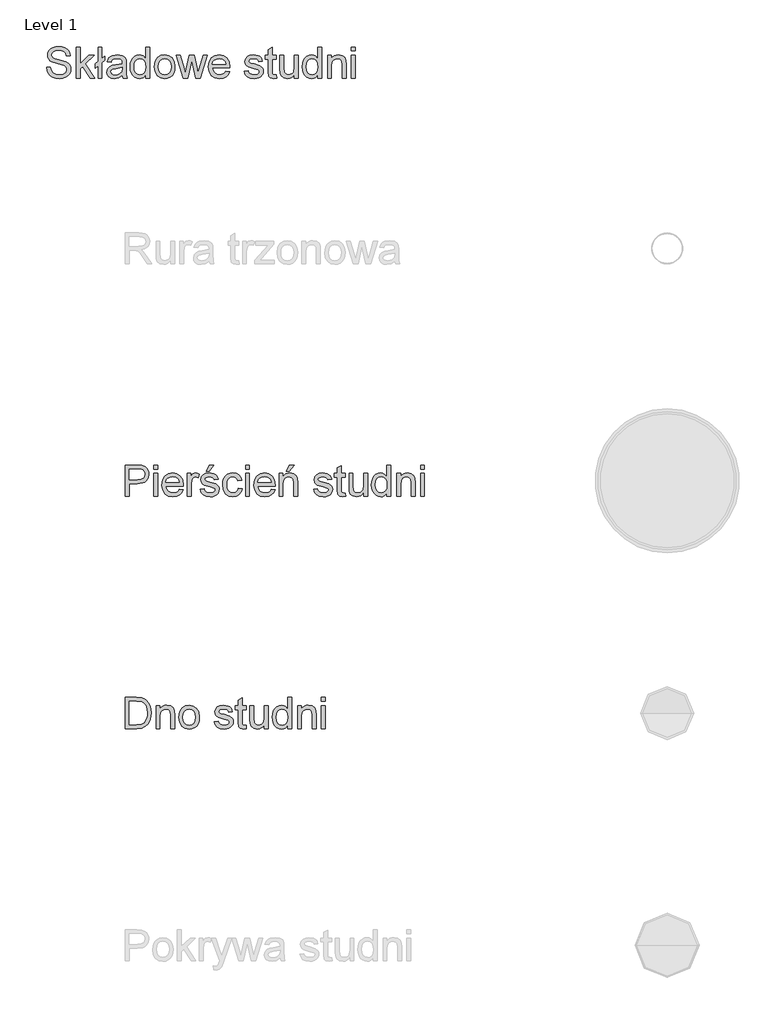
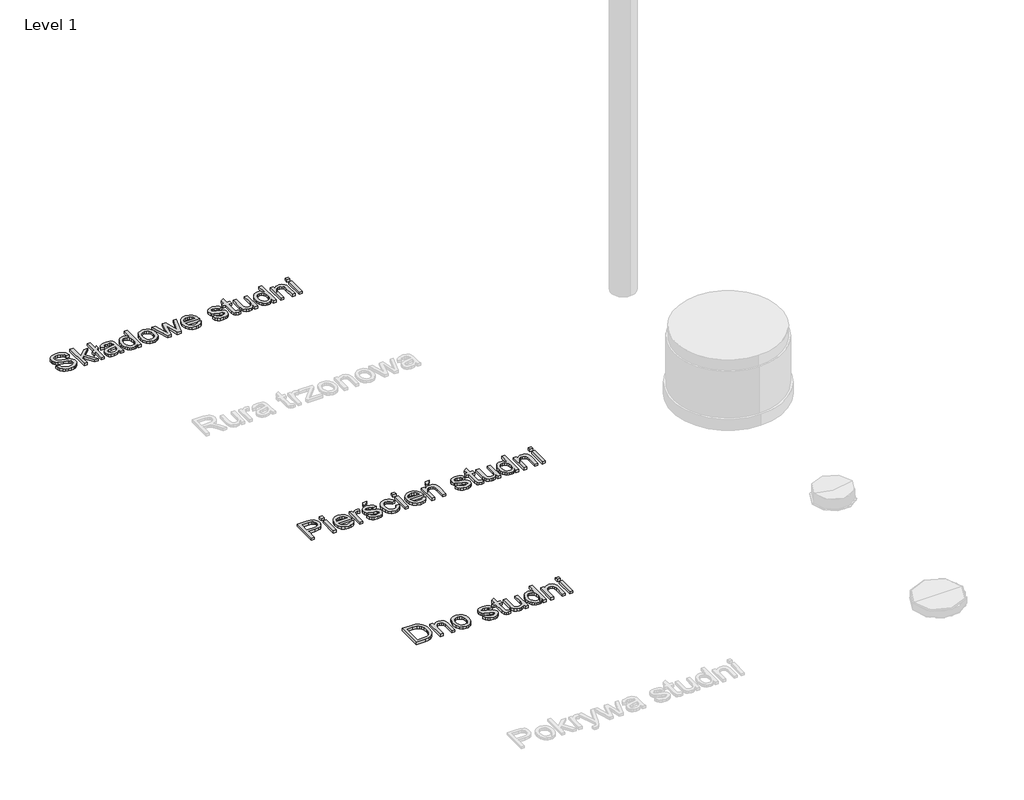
# One storey, part 4 of 8: 3 proxies.
"""IFC4 building model written with IfcOpenShell, lengths in millimetres."""

from ifc_helpers import new_model, si_unit, origin, origin_with_axes, place, context, project, spatial, polyline, outline, extrude, element, save

model = new_model("IFC4")

# Units and contexts
model_context = context("Model", 3, world=origin())
ifc_project = project(units=[si_unit("LENGTHUNIT", "METRE", prefix="MILLI")], contexts=[model_context])

# Site, building, storey
site = spatial("IfcSite", under=ifc_project)
building = spatial("IfcBuilding", under=site)
storey = spatial("IfcBuildingStorey", under=building, Name="Level 1", Elevation=0.0)

# Proxies
placement = place(None, origin())
element("IfcBuildingElementProxy", 1, Name="200mm Arial", ObjectType="200mm Arial", at=placement, inside=storey, context=model_context, shape_type="SweptSolid", body=[
    extrude(outline(polyline([(-17340.1100864, -11744.8858597), (-17314.9960089, -11744.8858597), (-17306.902605, -11770.0244627), (-17298.7724129, -11778.9149443), (-17287.1350791, -11785.9169649), (-17272.9103087, -11790.4603076), (-17257.0178065, -11791.9747551), (-17230.7755575, -11787.3884929), (-17213.8284602, -11774.7824032), (-17208.2611794, -11757.9334078), (-17212.4305087, -11742.2616348), (-17218.7826044, -11736.0628232), (-17229.5002332, -11730.857293), (-17266.0677036, -11721.2678356), (-17305.431077, -11708.8824751), (-17317.9329335, -11700.433452), (-17326.7927582, -11690.1940698), (-17332.0718649, -11678.3850577), (-17333.8315671, -11665.227145), (-17331.6549319, -11650.5179966), (-17325.1250265, -11636.8021295), (-17314.4135291, -11625.1770585), (-17299.6921179, -11616.7402981), (-17282.0215194, -11611.6083442), (-17262.46246, -11609.897693), (-17241.2724571, -11611.688052), (-17222.7312045, -11617.0591291), (-17207.5008899, -11625.9005598), (-17196.2437009, -11638.1019793), (-17189.1190529, -11652.9030982), (-17186.2863615, -11669.5436271), (-17211.4004391, -11669.5436271), (-17216.0112267, -11654.5585672), (-17225.6252095, -11643.7428365), (-17240.6470577, -11637.194537), (-17261.4814413, -11635.0117705), (-17282.8063343, -11637.1700115), (-17297.435775, -11643.6447347), (-17305.8970609, -11653.1728783), (-17308.7174895, -11664.491381), (-17306.718664, -11674.1421521), (-17300.7221875, -11681.9044622), (-17286.5464679, -11688.8451691), (-17259.7156078, -11695.9330289), (-17215.2754628, -11708.5391186), (-17200.9587218, -11717.6503293), (-17190.9707256, -11728.8952557), (-17185.1030078, -11742.1512702), (-17183.1471018, -11757.2957457), (-17185.3973134, -11772.7774463), (-17192.147948, -11787.339442), (-17203.1230942, -11799.8719553), (-17218.0468404, -11809.2652089), (-17235.9933504, -11815.1329267), (-17256.0367878, -11817.0888326), (-17280.6419619, -11814.9796425), (-17300.8938658, -11808.6520722), (-17317.0254912, -11798.0815962), (-17329.2698303, -11783.2436891), (-17337.1302423, -11765.1684204), (-17340.1100864, -11744.8858597)])), origin_with_axes(), (0.0, 0.0, 1.0), 20.0),
    extrude(outline(polyline([(-17148.6152452, -11813.949573), (-17148.6152452, -11613.0369527), (-17123.5011677, -11613.0369527), (-17123.5011677, -11720.9980555), (-17067.190697, -11666.4043674), (-17032.4626366, -11666.4043674), (-17089.4598204, -11721.6847686), (-17029.3233769, -11813.949573), (-17058.6558347, -11813.949573), (-17107.4615127, -11739.1469006), (-17123.5011677, -11754.6960463), (-17123.5011677, -11813.949573), (-17148.6152452, -11813.949573)])), origin_with_axes(), (0.0, 0.0, 1.0), 20.0),
    extrude(outline(polyline([(-17007.3485591, -11734.5361129), (-17026.1841172, -11749.5947493), (-17026.1841172, -11721.341412), (-17007.3485591, -11706.2827757), (-17007.3485591, -11613.0369527), (-16982.2344815, -11613.0369527), (-16982.2344815, -11686.1718933), (-16963.3989234, -11671.113257), (-16963.3989234, -11699.3665942), (-16982.2344815, -11714.4252305), (-16982.2344815, -11813.949573), (-17007.3485591, -11813.949573), (-17007.3485591, -11734.5361129)])), origin_with_axes(), (0.0, 0.0, 1.0), 20.0),
    extrude(outline(polyline([(-16850.3855745, -11795.1140148), (-16874.7393625, -11812.1346884), (-16901.6437991, -11817.0888326), (-16922.631467, -11814.1089885), (-16938.1131676, -11805.169456), (-16947.6597054, -11791.5946104), (-16950.8418846, -11774.7088268), (-16946.0348932, -11754.8431991), (-16933.404278, -11740.4222249), (-16915.8195187, -11732.1816682), (-16894.0899555, -11728.4047463), (-16850.5327273, -11719.7717822), (-16850.3855745, -11714.1799759), (-16852.1146198, -11702.9718377), (-16857.301756, -11695.6387233), (-16868.9023016, -11690.1940698), (-16885.0645839, -11688.3791853), (-16900.0251184, -11689.5870645), (-16910.472967, -11693.2107021), (-16917.597615, -11699.9122858), (-16922.5885474, -11710.3540031), (-16947.7026249, -11707.2147434), (-16936.8378433, -11682.6892771), (-16927.5794798, -11674.4364576), (-16914.9611274, -11668.3173538), (-16881.8272223, -11663.2651077), (-16851.3911186, -11667.7287426), (-16834.1987667, -11678.9368807), (-16826.4977702, -11695.9820798), (-16825.2714969, -11717.9568977), (-16825.2714969, -11749.2023418), (-16823.9961727, -11792.8331464), (-16818.9929775, -11813.949573), (-16844.1070551, -11813.949573), (-16850.3855745, -11795.1140148)]), holes=[polyline([(-16850.3855745, -11744.8858597), (-16890.9016449, -11752.5868562), (-16912.5085807, -11756.6580836), (-16922.2942418, -11763.2799595), (-16925.7278071, -11772.9429932), (-16923.8577403, -11780.4109977), (-16918.2475398, -11786.5301016), (-16909.0198331, -11790.6135917), (-16896.2972475, -11791.9747551), (-16882.808241, -11790.4725703), (-16870.8888643, -11785.9660159), (-16854.5058528, -11771.4224143), (-16850.5327273, -11751.998245), (-16850.3855745, -11744.8858597)])]), origin_with_axes(), (0.0, 0.0, 1.0), 20.0),
    extrude(outline(polyline([(-16699.7011092, -11813.949573), (-16699.7011092, -11790.2579725), (-16707.215099, -11801.9964738), (-16716.3171127, -11810.3811176), (-16727.0071503, -11815.4119039), (-16739.2852119, -11817.0888326), (-16755.5210706, -11814.6608115), (-16770.3835033, -11807.376748), (-16782.9650675, -11795.7455456), (-16792.3583211, -11780.2761077), (-16798.2076448, -11761.5938337), (-16800.1574194, -11740.324123), (-16798.360929, -11719.3180611), (-16792.9714578, -11700.3476128), (-16783.9951371, -11684.4918989), (-16771.4380983, -11672.8300396), (-16756.2507033, -11665.6563407), (-16739.3833138, -11663.2651077), (-16727.0960552, -11664.975759), (-16716.2312736, -11670.1077128), (-16699.7011092, -11687.8886759), (-16699.7011092, -11613.0369527), (-16674.5870317, -11613.0369527), (-16674.5870317, -11813.949573), (-16699.7011092, -11813.949573)]), holes=[polyline([(-16775.0433419, -11740.2260211), (-16772.2106505, -11762.9427343), (-16763.7125764, -11779.0988853), (-16751.3640041, -11788.7557877), (-16736.9798181, -11791.9747551), (-16722.6017634, -11788.9029404), (-16710.5658908, -11779.6874965), (-16702.4173046, -11764.1567449), (-16699.7011092, -11742.1390075), (-16702.4663556, -11718.0672623), (-16710.7620946, -11701.3776824), (-16723.1045355, -11691.6288096), (-16738.0098877, -11688.3791853), (-16752.5412265, -11691.5000509), (-16764.4483404, -11700.8626476), (-16772.3945915, -11716.9452222), (-16775.0433419, -11740.2260211)])]), origin_with_axes(), (0.0, 0.0, 1.0), 20.0),
    extrude(outline(polyline([(-16643.1944348, -11740.1769702), (-16637.762044, -11704.6027813), (-16630.9715555, -11690.7796153), (-16621.4648716, -11679.5990683), (-16601.3294637, -11667.3485979), (-16577.2209303, -11663.2651077), (-16550.8376599, -11668.237646), (-16529.7641529, -11683.1552609), (-16515.950184, -11706.8407301), (-16511.3455277, -11738.116831), (-16513.3811414, -11763.4884259), (-16519.4879825, -11782.8022307), (-16529.4882414, -11797.2661245), (-16543.2041085, -11808.0879865), (-16559.4951495, -11814.8386211), (-16577.2209303, -11817.0888326), (-16603.9230318, -11812.1346884), (-16624.9720133, -11797.2722558), (-16638.6388294, -11773.090146), (-16643.1944348, -11740.1769702)]), holes=[polyline([(-16618.0803572, -11740.1279193), (-16615.1740895, -11762.8568952), (-16606.4552862, -11779.0498343), (-16593.3341617, -11788.7435249), (-16577.2209303, -11791.9747551), (-16561.1812753, -11788.7251308), (-16548.0846763, -11778.9762579), (-16539.365873, -11762.568721), (-16536.4596053, -11739.3431043), (-16539.3842671, -11717.276316), (-16548.1582527, -11701.304106), (-16561.2732458, -11691.6104155), (-16577.2209303, -11688.3791853), (-16593.3341617, -11691.5981527), (-16606.4552862, -11701.2550551), (-16615.1740895, -11717.4112061), (-16618.0803572, -11740.1279193)])]), origin_with_axes(), (0.0, 0.0, 1.0), 20.0),
    extrude(outline(polyline([(-16458.6157751, -11813.949573), (-16503.4973785, -11666.4043674), (-16477.4022823, -11666.4043674), (-16451.9448482, -11752.4887543), (-16444.3419537, -11783.2436891), (-16438.1124852, -11753.6169257), (-16417.85445, -11666.4043674), (-16387.9333811, -11666.4043674), (-16367.7734477, -11753.3716711), (-16362.2306923, -11780.2025313), (-16354.2844412, -11751.9001431), (-16328.7779562, -11666.4043674), (-16302.5847582, -11666.4043674), (-16347.8097181, -11813.949573), (-16378.1722455, -11813.949573), (-16397.449262, -11727.4237277), (-16403.0410683, -11700.4457147), (-16427.9098912, -11813.949573), (-16458.6157751, -11813.949573)])), origin_with_axes(), (0.0, 0.0, 1.0), 20.0),
    extrude(outline(polyline([(-16182.0175656, -11769.9999373), (-16157.3939974, -11773.139197), (-16166.2660849, -11791.6927122), (-16180.4234103, -11805.5618635), (-16199.5471427, -11814.2070904), (-16223.318451, -11817.0888326), (-16252.7857988, -11812.1162943), (-16275.4595924, -11797.1986794), (-16289.9173548, -11773.3047439), (-16294.736609, -11741.4032435), (-16289.8683039, -11708.428754), (-16275.2633887, -11683.7683976), (-16252.8961634, -11668.3909302), (-16224.740928, -11663.2651077), (-16197.4624781, -11668.3786675), (-16175.6654698, -11683.7193467), (-16161.3732543, -11708.3306521), (-16156.6091825, -11741.2560907), (-16156.7563353, -11748.0251194), (-16269.6225314, -11748.0251194), (-16265.2753925, -11766.8238894), (-16255.1770317, -11780.6439897), (-16240.6027734, -11789.1420637), (-16222.8279416, -11791.9747551), (-16198.2043734, -11786.7263053), (-16189.0563745, -11779.9204884), (-16182.0175656, -11769.9999373)]), holes=[polyline([(-16269.6225314, -11722.9110419), (-16181.72326, -11722.9110419), (-16185.1200371, -11709.6427646), (-16191.7787012, -11700.1514091), (-16206.4204046, -11691.3222412), (-16224.8390299, -11688.3791853), (-16241.767733, -11690.7274987), (-16255.7656429, -11697.7724389), (-16265.4961217, -11708.7537164), (-16269.6225314, -11722.9110419)])]), origin_with_axes(), (0.0, 0.0, 1.0), 20.0),
    extrude(outline(polyline([(-16062.4313917, -11769.9999373), (-16037.3173142, -11766.8606776), (-16033.3564514, -11777.6028318), (-16025.6922431, -11785.500032), (-16014.2756386, -11790.3560743), (-15999.0575867, -11791.9747551), (-15984.0234758, -11790.4909644), (-15973.4529998, -11786.0395923), (-15967.1990059, -11779.5893946), (-15965.1143413, -11772.1091274), (-15967.2112686, -11765.7079807), (-15973.5020508, -11760.8274129), (-15999.3518923, -11753.6659767), (-16037.1701614, -11741.378718), (-16046.7412246, -11735.2044319), (-16053.6758002, -11727.0313202), (-16059.292132, -11706.773285), (-16054.7794462, -11688.0603542), (-16042.4676621, -11673.7620073), (-16026.5015835, -11666.330791), (-16004.8946477, -11663.2651077), (-15974.3359166, -11668.1947265), (-15962.9070493, -11673.9949993), (-15954.9117473, -11681.5365802), (-15946.2787831, -11704.0754837), (-15971.3928607, -11707.2147434), (-15974.5627772, -11699.3114119), (-15980.8351652, -11693.3578549), (-16002.9326104, -11688.3791853), (-16017.3535846, -11689.5686704), (-16026.9675674, -11693.1371257), (-16032.3754327, -11698.2874737), (-16034.1780545, -11704.2226365), (-16031.1859476, -11711.5312255), (-16021.8172195, -11717.0739809), (-16000.1857581, -11722.4205326), (-15963.3239822, -11734.2418073), (-15946.2052067, -11747.632712), (-15941.5514995, -11757.4796867), (-15940.0002637, -11769.460377), (-15941.8212796, -11781.8457375), (-15947.2843272, -11793.495334), (-15956.1809402, -11803.4955929), (-15968.3026519, -11810.9329406), (-15982.9443553, -11815.5498596), (-15999.4009432, -11817.0888326), (-16024.7234872, -11814.1212512), (-16043.2034261, -11805.2185069), (-16055.5397357, -11790.4787017), (-16062.4313917, -11769.9999373)])), origin_with_axes(), (0.0, 0.0, 1.0), 20.0),
    extrude(outline(polyline([(-15858.3795117, -11793.0048247), (-15855.240252, -11814.6853369), (-15874.0267593, -11817.0888326), (-15895.0696094, -11812.9195034), (-15905.566509, -11801.9811454), (-15908.6076668, -11773.4825535), (-15908.6076668, -11691.518445), (-15927.443225, -11691.518445), (-15927.443225, -11666.4043674), (-15908.6076668, -11666.4043674), (-15908.6076668, -11630.5481356), (-15883.4935893, -11615.7838049), (-15883.4935893, -11666.4043674), (-15858.3795117, -11666.4043674), (-15858.3795117, -11691.518445), (-15883.4935893, -11691.518445), (-15883.4935893, -11772.7467895), (-15882.1692141, -11785.6962357), (-15877.8772575, -11790.2824979), (-15869.3178697, -11791.9747551), (-15858.3795117, -11793.0048247)])), origin_with_axes(), (0.0, 0.0, 1.0), 20.0),
    extrude(outline(polyline([(-15739.0876434, -11813.949573), (-15739.0876434, -11788.5902408), (-15748.1743287, -11801.0583747), (-15758.7570674, -11809.9641847), (-15770.8358596, -11815.3076707), (-15784.4107052, -11817.0888326), (-15808.0287293, -11812.0856375), (-15824.313639, -11799.5285987), (-15831.7939062, -11781.0363971), (-15833.2654342, -11757.6881532), (-15833.2654342, -11666.4043674), (-15808.1513567, -11666.4043674), (-15808.1513567, -11745.8668784), (-15806.6307778, -11771.4714652), (-15802.9703519, -11780.0124589), (-15796.6979639, -11786.5055761), (-15777.9850331, -11791.9747551), (-15757.0157593, -11786.3829488), (-15748.6587067, -11779.779467), (-15743.1588709, -11771.1526342), (-15739.0876434, -11743.1690771), (-15739.0876434, -11666.4043674), (-15713.9735659, -11666.4043674), (-15713.9735659, -11813.949573), (-15739.0876434, -11813.949573)])), origin_with_axes(), (0.0, 0.0, 1.0), 20.0),
    extrude(outline(polyline([(-15588.4031782, -11813.949573), (-15588.4031782, -11790.2579725), (-15595.917168, -11801.9964738), (-15605.0191817, -11810.3811176), (-15615.7092193, -11815.4119039), (-15627.9872809, -11817.0888326), (-15644.2231396, -11814.6608115), (-15659.0855722, -11807.376748), (-15671.6671365, -11795.7455456), (-15681.0603901, -11780.2761077), (-15686.9097138, -11761.5938337), (-15688.8594884, -11740.324123), (-15687.062998, -11719.3180611), (-15681.6735267, -11700.3476128), (-15672.697206, -11684.4918989), (-15660.1401673, -11672.8300396), (-15644.9527722, -11665.6563407), (-15628.0853828, -11663.2651077), (-15615.7981241, -11664.975759), (-15604.9333425, -11670.1077128), (-15588.4031782, -11687.8886759), (-15588.4031782, -11613.0369527), (-15563.2891007, -11613.0369527), (-15563.2891007, -11813.949573), (-15588.4031782, -11813.949573)]), holes=[polyline([(-15663.7454108, -11740.2260211), (-15660.9127195, -11762.9427343), (-15652.4146454, -11779.0988853), (-15640.0660731, -11788.7557877), (-15625.6818871, -11791.9747551), (-15611.3038324, -11788.9029404), (-15599.2679598, -11779.6874965), (-15591.1193736, -11764.1567449), (-15588.4031782, -11742.1390075), (-15591.1684245, -11718.0672623), (-15599.4641635, -11701.3776824), (-15611.8066045, -11691.6288096), (-15626.7119566, -11688.3791853), (-15641.2432955, -11691.5000509), (-15653.1504094, -11700.8626476), (-15661.0966605, -11716.9452222), (-15663.7454108, -11740.2260211)])]), origin_with_axes(), (0.0, 0.0, 1.0), 20.0),
    extrude(outline(polyline([(-15525.6179844, -11813.949573), (-15525.6179844, -11666.4043674), (-15500.5039068, -11666.4043674), (-15500.5039068, -11687.0057592), (-15491.7789722, -11676.6192242), (-15481.3004667, -11669.2002706), (-15469.0683903, -11664.7488984), (-15455.0827432, -11663.2651077), (-15431.3666172, -11668.0475737), (-15415.1798094, -11680.6046124), (-15407.6504912, -11699.0722886), (-15406.3261161, -11723.3525003), (-15406.3261161, -11813.949573), (-15431.4401936, -11813.949573), (-15431.4401936, -11726.7370146), (-15434.3341986, -11704.5169421), (-15444.5613181, -11692.7692437), (-15461.8027209, -11688.3791853), (-15476.5118694, -11690.8439946), (-15489.050514, -11698.2384227), (-15497.6405586, -11712.5245069), (-15500.5039068, -11735.6642844), (-15500.5039068, -11813.949573), (-15525.6179844, -11813.949573)])), origin_with_axes(), (0.0, 0.0, 1.0), 20.0),
    extrude(outline(polyline([(-15371.7942595, -11813.949573), (-15371.7942595, -11666.4043674), (-15346.6801819, -11666.4043674), (-15346.6801819, -11813.949573), (-15371.7942595, -11813.949573)])), origin_with_axes(), (0.0, 0.0, 1.0), 20.0),
    extrude(outline(polyline([(-15371.7942595, -11638.1510302), (-15371.7942595, -11613.0369527), (-15346.6801819, -11613.0369527), (-15346.6801819, -11638.1510302), (-15371.7942595, -11638.1510302)])), origin_with_axes(), (0.0, 0.0, 1.0), 20.0),
])
element("IfcBuildingElementProxy", 2, Name="200mm Arial", ObjectType="200mm Arial", at=placement, inside=storey, context=model_context, shape_type="SweptSolid", body=[
    extrude(outline(polyline([(-16830.6923074, -14513.949573), (-16830.6923074, -14313.0369527), (-16756.2329915, -14313.0369527), (-16726.2138207, -14314.949939), (-16701.8109817, -14324.3431926), (-16692.9388943, -14332.6695885), (-16685.9920559, -14343.767362), (-16681.5038956, -14356.8578296), (-16680.0078421, -14371.1623079), (-16684.0484127, -14394.8416456), (-16696.1701245, -14414.5723833), (-16705.8776106, -14422.3408248), (-16718.8377867, -14427.8897115), (-16754.5162089, -14432.328821), (-16805.5782298, -14432.328821), (-16805.5782298, -14513.949573), (-16830.6923074, -14513.949573)]), holes=[polyline([(-16805.5782298, -14407.2147434), (-16753.0446809, -14407.2147434), (-16730.7755575, -14404.9093496), (-16716.0602777, -14397.9931681), (-16707.8565092, -14386.8953946), (-16705.1219197, -14372.0452247), (-16706.7344691, -14360.7635102), (-16711.5721173, -14351.2476292), (-16719.0339905, -14344.086193), (-16728.5192146, -14339.8678128), (-16753.6332921, -14338.1510302), (-16805.5782298, -14338.1510302), (-16805.5782298, -14407.2147434)])]), origin_with_axes(), (0.0, 0.0, 1.0), 20.0),
    extrude(outline(polyline([(-16648.6152452, -14513.949573), (-16648.6152452, -14366.4043674), (-16623.5011677, -14366.4043674), (-16623.5011677, -14513.949573), (-16648.6152452, -14513.949573)])), origin_with_axes(), (0.0, 0.0, 1.0), 20.0),
    extrude(outline(polyline([(-16648.6152452, -14338.1510302), (-16648.6152452, -14313.0369527), (-16623.5011677, -14313.0369527), (-16623.5011677, -14338.1510302), (-16648.6152452, -14338.1510302)])), origin_with_axes(), (0.0, 0.0, 1.0), 20.0),
    extrude(outline(polyline([(-16482.5287871, -14469.9999373), (-16457.9052189, -14473.139197), (-16466.7773064, -14491.6927122), (-16480.9346318, -14505.5618635), (-16500.0583642, -14514.2070904), (-16523.8296725, -14517.0888326), (-16553.2970203, -14512.1162943), (-16575.9708139, -14497.1986794), (-16590.4285763, -14473.3047439), (-16595.2478305, -14441.4032435), (-16590.3795254, -14408.428754), (-16575.7746102, -14383.7683976), (-16553.4073849, -14368.3909302), (-16525.2521495, -14363.2651077), (-16497.9736996, -14368.3786675), (-16476.1766914, -14383.7193467), (-16461.8844758, -14408.3306521), (-16457.120404, -14441.2560907), (-16457.2675568, -14448.0251194), (-16570.1337529, -14448.0251194), (-16565.786614, -14466.8238894), (-16555.6882532, -14480.6439897), (-16541.1139949, -14489.1420637), (-16523.3391631, -14491.9747551), (-16498.7155949, -14486.7263053), (-16489.567596, -14479.9204884), (-16482.5287871, -14469.9999373)]), holes=[polyline([(-16570.1337529, -14422.9110419), (-16482.2344815, -14422.9110419), (-16485.6312586, -14409.6427646), (-16492.2899227, -14400.1514091), (-16506.9316261, -14391.3222412), (-16525.3502514, -14388.3791853), (-16542.2789545, -14390.7274987), (-16556.2768644, -14397.7724389), (-16566.0073432, -14408.7537164), (-16570.1337529, -14422.9110419)])]), origin_with_axes(), (0.0, 0.0, 1.0), 20.0),
    extrude(outline(polyline([(-16432.0063265, -14513.949573), (-16432.0063265, -14366.4043674), (-16410.0315086, -14366.4043674), (-16410.0315086, -14388.2320325), (-16394.433312, -14368.1211501), (-16378.7370136, -14363.2651077), (-16366.2290257, -14365.2026196), (-16353.5248342, -14371.0151551), (-16361.9125437, -14393.5295332), (-16379.5708794, -14388.3791853), (-16393.7711244, -14393.3333295), (-16402.8210215, -14407.0675906), (-16406.8922489, -14436.4000484), (-16406.8922489, -14513.949573), (-16432.0063265, -14513.949573)])), origin_with_axes(), (0.0, 0.0, 1.0), 20.0),
    extrude(outline(polyline([(-16309.5751985, -14350.708069), (-16290.7396403, -14313.0369527), (-16259.3470434, -14313.0369527), (-16290.7396403, -14350.708069), (-16309.5751985, -14350.708069)])), origin_with_axes(), (0.0, 0.0, 1.0), 20.0),
    extrude(outline(polyline([(-16347.2463148, -14469.9999373), (-16322.1322372, -14466.8606776), (-16318.1713744, -14477.6028318), (-16310.5071662, -14485.500032), (-16299.0905616, -14490.3560743), (-16283.8725097, -14491.9747551), (-16268.8383989, -14490.4909644), (-16258.2679229, -14486.0395923), (-16252.013929, -14479.5893946), (-16249.9292643, -14472.1091274), (-16252.0261917, -14465.7079807), (-16258.3169738, -14460.8274129), (-16284.1668153, -14453.6659767), (-16321.9850844, -14441.378718), (-16331.5561477, -14435.2044319), (-16338.4907233, -14427.0313202), (-16344.1070551, -14406.773285), (-16339.5943693, -14388.0603542), (-16327.2825852, -14373.7620073), (-16311.3165066, -14366.330791), (-16289.7095707, -14363.2651077), (-16259.1508397, -14368.1947265), (-16247.7219723, -14373.9949993), (-16239.7266703, -14381.5365802), (-16231.0937062, -14404.0754837), (-16256.2077837, -14407.2147434), (-16259.3777002, -14399.3114119), (-16265.6500882, -14393.3578549), (-16287.7475334, -14388.3791853), (-16302.1685076, -14389.5686704), (-16311.7824904, -14393.1371257), (-16317.1903558, -14398.2874737), (-16318.9929775, -14404.2226365), (-16316.0008707, -14411.5312255), (-16306.6321425, -14417.0739809), (-16285.0006812, -14422.4205326), (-16248.1389053, -14434.2418073), (-16231.0201298, -14447.632712), (-16226.3664225, -14457.4796867), (-16224.8151868, -14469.460377), (-16226.6362027, -14481.8457375), (-16232.0992503, -14493.495334), (-16240.9958632, -14503.4955929), (-16253.1175749, -14510.9329406), (-16267.7592784, -14515.5498596), (-16284.2158663, -14517.0888326), (-16309.5384103, -14514.1212512), (-16328.0183492, -14505.2185069), (-16340.3546587, -14490.4787017), (-16347.2463148, -14469.9999373)])), origin_with_axes(), (0.0, 0.0, 1.0), 20.0),
    extrude(outline(polyline([(-16102.3840588, -14460.5821582), (-16077.2699812, -14463.7214179), (-16084.2720019, -14486.0579864), (-16097.4299146, -14502.9376386), (-16115.5051833, -14513.5510341), (-16137.2592719, -14517.0888326), (-16163.9736361, -14512.1530825), (-16184.8632021, -14497.3458322), (-16198.3460772, -14473.3170066), (-16202.8403689, -14440.7165304), (-16200.9212512, -14418.3676992), (-16195.163898, -14398.9987122), (-16185.4763388, -14383.357596), (-16171.7666031, -14372.1923775), (-16155.3651975, -14365.4969252), (-16137.6026285, -14363.2651077), (-16116.3819687, -14366.330791), (-16099.4164774, -14375.5278409), (-16087.2457147, -14390.365748), (-16080.4092409, -14410.3540031), (-16105.5233185, -14413.4932628), (-16110.0789239, -14402.5365107), (-16117.172915, -14394.6822301), (-16126.4128844, -14389.9549465), (-16137.4064247, -14388.3791853), (-16153.6361521, -14391.4816568), (-16166.5181533, -14400.7890712), (-16174.9242569, -14416.8042008), (-16177.7262914, -14440.0298174), (-16174.9855705, -14463.5681337), (-16166.7634079, -14479.6384455), (-16154.1143987, -14488.8906777), (-16138.0931378, -14491.9747551), (-16125.0885093, -14490.049506), (-16114.4260628, -14484.2737587), (-16106.669884, -14474.5003603), (-16102.3840588, -14460.5821582)])), origin_with_axes(), (0.0, 0.0, 1.0), 20.0),
    extrude(outline(polyline([(-16055.2951634, -14513.949573), (-16055.2951634, -14366.4043674), (-16030.1810859, -14366.4043674), (-16030.1810859, -14513.949573), (-16055.2951634, -14513.949573)])), origin_with_axes(), (0.0, 0.0, 1.0), 20.0),
    extrude(outline(polyline([(-16055.2951634, -14338.1510302), (-16055.2951634, -14313.0369527), (-16030.1810859, -14313.0369527), (-16030.1810859, -14338.1510302), (-16055.2951634, -14338.1510302)])), origin_with_axes(), (0.0, 0.0, 1.0), 20.0),
    extrude(outline(polyline([(-15889.2087053, -14469.9999373), (-15864.5851371, -14473.139197), (-15873.4572246, -14491.6927122), (-15887.61455, -14505.5618635), (-15906.7382824, -14514.2070904), (-15930.5095906, -14517.0888326), (-15959.9769385, -14512.1162943), (-15982.6507321, -14497.1986794), (-15997.1084945, -14473.3047439), (-16001.9277486, -14441.4032435), (-15997.0594436, -14408.428754), (-15982.4545284, -14383.7683976), (-15960.0873031, -14368.3909302), (-15931.9320677, -14363.2651077), (-15904.6536177, -14368.3786675), (-15882.8566095, -14383.7193467), (-15868.564394, -14408.3306521), (-15863.8003222, -14441.2560907), (-15863.947475, -14448.0251194), (-15976.8136711, -14448.0251194), (-15972.4665322, -14466.8238894), (-15962.3681714, -14480.6439897), (-15947.793913, -14489.1420637), (-15930.0190813, -14491.9747551), (-15905.3955131, -14486.7263053), (-15896.2475142, -14479.9204884), (-15889.2087053, -14469.9999373)]), holes=[polyline([(-15976.8136711, -14422.9110419), (-15888.9143997, -14422.9110419), (-15892.3111768, -14409.6427646), (-15898.9698409, -14400.1514091), (-15913.6115443, -14391.3222412), (-15932.0301696, -14388.3791853), (-15948.9588727, -14390.7274987), (-15962.9567826, -14397.7724389), (-15972.6872614, -14408.7537164), (-15976.8136711, -14422.9110419)])]), origin_with_axes(), (0.0, 0.0, 1.0), 20.0),
    extrude(outline(polyline([(-15838.6862446, -14513.949573), (-15838.6862446, -14366.4043674), (-15813.5721671, -14366.4043674), (-15813.5721671, -14387.0057592), (-15804.8472325, -14376.6192242), (-15794.368727, -14369.2002706), (-15782.1366506, -14364.7488984), (-15768.1510034, -14363.2651077), (-15744.4348775, -14368.0475737), (-15728.2480697, -14380.6046124), (-15720.7187515, -14399.0722886), (-15719.3943763, -14423.3525003), (-15719.3943763, -14513.949573), (-15744.5084539, -14513.949573), (-15744.5084539, -14426.7370146), (-15747.4024589, -14404.5169421), (-15757.6295784, -14392.7692437), (-15774.8709812, -14388.3791853), (-15789.5801297, -14390.8439946), (-15802.1187743, -14398.2384227), (-15810.7088189, -14412.5245069), (-15813.5721671, -14435.6642844), (-15813.5721671, -14513.949573), (-15838.6862446, -14513.949573)])), origin_with_axes(), (0.0, 0.0, 1.0), 20.0),
    extrude(outline(polyline([(-15791.5973493, -14350.708069), (-15772.7617911, -14313.0369527), (-15741.3691942, -14313.0369527), (-15772.7617911, -14350.708069), (-15791.5973493, -14350.708069)])), origin_with_axes(), (0.0, 0.0, 1.0), 20.0),
    extrude(outline(polyline([(-15615.7988065, -14469.9999373), (-15590.684729, -14466.8606776), (-15586.7238661, -14477.6028318), (-15579.0596579, -14485.500032), (-15567.6430533, -14490.3560743), (-15552.4250015, -14491.9747551), (-15537.3908906, -14490.4909644), (-15526.8204146, -14486.0395923), (-15520.5664207, -14479.5893946), (-15518.481756, -14472.1091274), (-15520.5786834, -14465.7079807), (-15526.8694655, -14460.8274129), (-15552.7193071, -14453.6659767), (-15590.5375762, -14441.378718), (-15600.1086394, -14435.2044319), (-15607.043215, -14427.0313202), (-15612.6595468, -14406.773285), (-15608.146861, -14388.0603542), (-15595.8350769, -14373.7620073), (-15579.8689983, -14366.330791), (-15558.2620625, -14363.2651077), (-15527.7033314, -14368.1947265), (-15516.2744641, -14373.9949993), (-15508.279162, -14381.5365802), (-15499.6461979, -14404.0754837), (-15524.7602754, -14407.2147434), (-15527.930192, -14399.3114119), (-15534.20258, -14393.3578549), (-15556.3000251, -14388.3791853), (-15570.7209994, -14389.5686704), (-15580.3349822, -14393.1371257), (-15585.7428475, -14398.2874737), (-15587.5454693, -14404.2226365), (-15584.5533624, -14411.5312255), (-15575.1846342, -14417.0739809), (-15553.5531729, -14422.4205326), (-15516.691397, -14434.2418073), (-15499.5726215, -14447.632712), (-15494.9189143, -14457.4796867), (-15493.3676785, -14469.460377), (-15495.1886944, -14481.8457375), (-15500.651742, -14493.495334), (-15509.5483549, -14503.4955929), (-15521.6700667, -14510.9329406), (-15536.3117701, -14515.5498596), (-15552.768358, -14517.0888326), (-15578.090902, -14514.1212512), (-15596.5708409, -14505.2185069), (-15608.9071505, -14490.4787017), (-15615.7988065, -14469.9999373)])), origin_with_axes(), (0.0, 0.0, 1.0), 20.0),
    extrude(outline(polyline([(-15411.7469265, -14493.0048247), (-15408.6076668, -14514.6853369), (-15427.394174, -14517.0888326), (-15448.4370242, -14512.9195034), (-15458.9339238, -14501.9811454), (-15461.9750816, -14473.4825535), (-15461.9750816, -14391.518445), (-15480.8106397, -14391.518445), (-15480.8106397, -14366.4043674), (-15461.9750816, -14366.4043674), (-15461.9750816, -14330.5481356), (-15436.861004, -14315.7838049), (-15436.861004, -14366.4043674), (-15411.7469265, -14366.4043674), (-15411.7469265, -14391.518445), (-15436.861004, -14391.518445), (-15436.861004, -14472.7467895), (-15435.5366289, -14485.6962357), (-15431.2446723, -14490.2824979), (-15422.6852845, -14491.9747551), (-15411.7469265, -14493.0048247)])), origin_with_axes(), (0.0, 0.0, 1.0), 20.0),
    extrude(outline(polyline([(-15292.4550582, -14513.949573), (-15292.4550582, -14488.5902408), (-15301.5417435, -14501.0583747), (-15312.1244822, -14509.9641847), (-15324.2032744, -14515.3076707), (-15337.77812, -14517.0888326), (-15361.3961441, -14512.0856375), (-15377.6810538, -14499.5285987), (-15385.161321, -14481.0363971), (-15386.632849, -14457.6881532), (-15386.632849, -14366.4043674), (-15361.5187714, -14366.4043674), (-15361.5187714, -14445.8668784), (-15359.9981925, -14471.4714652), (-15356.3377667, -14480.0124589), (-15350.0653786, -14486.5055761), (-15331.3524478, -14491.9747551), (-15310.3831741, -14486.3829488), (-15302.0261214, -14479.779467), (-15296.5262856, -14471.1526342), (-15292.4550582, -14443.1690771), (-15292.4550582, -14366.4043674), (-15267.3409807, -14366.4043674), (-15267.3409807, -14513.949573), (-15292.4550582, -14513.949573)])), origin_with_axes(), (0.0, 0.0, 1.0), 20.0),
    extrude(outline(polyline([(-15141.770593, -14513.949573), (-15141.770593, -14490.2579725), (-15149.2845827, -14501.9964738), (-15158.3865964, -14510.3811176), (-15169.0766341, -14515.4119039), (-15181.3546957, -14517.0888326), (-15197.5905544, -14514.6608115), (-15212.452987, -14507.376748), (-15225.0345512, -14495.7455456), (-15234.4278048, -14480.2761077), (-15240.2771286, -14461.5938337), (-15242.2269031, -14440.324123), (-15240.4304127, -14419.3180611), (-15235.0409415, -14400.3476128), (-15226.0646208, -14384.4918989), (-15213.507582, -14372.8300396), (-15198.320187, -14365.6563407), (-15181.4527975, -14363.2651077), (-15169.1655389, -14364.975759), (-15158.3007573, -14370.1077128), (-15141.770593, -14387.8886759), (-15141.770593, -14313.0369527), (-15116.6565154, -14313.0369527), (-15116.6565154, -14513.949573), (-15141.770593, -14513.949573)]), holes=[polyline([(-15217.1128256, -14440.2260211), (-15214.2801342, -14462.9427343), (-15205.7820601, -14479.0988853), (-15193.4334878, -14488.7557877), (-15179.0493018, -14491.9747551), (-15164.6712472, -14488.9029404), (-15152.6353746, -14479.6874965), (-15144.4867884, -14464.1567449), (-15141.770593, -14442.1390075), (-15144.5358393, -14418.0672623), (-15152.8315783, -14401.3776824), (-15165.1740192, -14391.6288096), (-15180.0793714, -14388.3791853), (-15194.6107102, -14391.5000509), (-15206.5178241, -14400.8626476), (-15214.4640752, -14416.9452222), (-15217.1128256, -14440.2260211)])]), origin_with_axes(), (0.0, 0.0, 1.0), 20.0),
    extrude(outline(polyline([(-15078.9853991, -14513.949573), (-15078.9853991, -14366.4043674), (-15053.8713216, -14366.4043674), (-15053.8713216, -14387.0057592), (-15045.1463869, -14376.6192242), (-15034.6678815, -14369.2002706), (-15022.4358051, -14364.7488984), (-15008.4501579, -14363.2651077), (-14984.734032, -14368.0475737), (-14968.5472242, -14380.6046124), (-14961.017906, -14399.0722886), (-14959.6935308, -14423.3525003), (-14959.6935308, -14513.949573), (-14984.8076084, -14513.949573), (-14984.8076084, -14426.7370146), (-14987.7016134, -14404.5169421), (-14997.9287329, -14392.7692437), (-15015.1701357, -14388.3791853), (-15029.8792841, -14390.8439946), (-15042.4179288, -14398.2384227), (-15051.0079734, -14412.5245069), (-15053.8713216, -14435.6642844), (-15053.8713216, -14513.949573), (-15078.9853991, -14513.949573)])), origin_with_axes(), (0.0, 0.0, 1.0), 20.0),
    extrude(outline(polyline([(-14925.1616742, -14338.1510302), (-14925.1616742, -14313.0369527), (-14900.0475967, -14313.0369527), (-14900.0475967, -14338.1510302), (-14925.1616742, -14338.1510302)])), origin_with_axes(), (0.0, 0.0, 1.0), 20.0),
    extrude(outline(polyline([(-14925.1616742, -14513.949573), (-14925.1616742, -14366.4043674), (-14900.0475967, -14366.4043674), (-14900.0475967, -14513.949573), (-14925.1616742, -14513.949573)])), origin_with_axes(), (0.0, 0.0, 1.0), 20.0),
])
element("IfcBuildingElementProxy", 3, Name="200mm Arial", ObjectType="200mm Arial", at=placement, inside=storey, context=model_context, shape_type="SweptSolid", body=[
    extrude(outline(polyline([(-16830.6923074, -16013.949573), (-16830.6923074, -15813.0369527), (-16761.3833395, -15813.0369527), (-16725.5271077, -15815.9309577), (-16709.5119782, -15821.5105013), (-16695.9984462, -15830.302881), (-16682.1047695, -15845.606772), (-16672.2087438, -15864.6385338), (-16666.2858437, -15887.0302846), (-16664.3115437, -15912.4141423), (-16669.6580953, -15952.9547382), (-16683.3923565, -15982.2136195), (-16701.7374053, -16000.436041), (-16725.7478369, -16010.5160077), (-16758.0478761, -16013.949573), (-16830.6923074, -16013.949573)]), holes=[polyline([(-16805.5782298, -15988.8354954), (-16761.1380848, -15988.8354954), (-16728.8135202, -15985.2057264), (-16710.1741658, -15974.9540815), (-16701.4492311, -15964.0831685), (-16694.8948002, -15950.0116822), (-16690.792916, -15932.6783089), (-16689.4256212, -15912.0217348), (-16692.1050284, -15884.6513144), (-16700.14325, -15864.4423301), (-16712.0197071, -15850.5609162), (-16726.2138207, -15842.1732067), (-16761.8247979, -15838.1510302), (-16805.5782298, -15838.1510302), (-16805.5782298, -15988.8354954)])]), origin_with_axes(), (0.0, 0.0, 1.0), 20.0),
    extrude(outline(polyline([(-16632.9189468, -16013.949573), (-16632.9189468, -15866.4043674), (-16607.8048692, -15866.4043674), (-16607.8048692, -15887.0057592), (-16599.0799346, -15876.6192242), (-16588.6014291, -15869.2002706), (-16576.3693527, -15864.7488984), (-16562.3837056, -15863.2651077), (-16538.6675796, -15868.0475737), (-16522.4807718, -15880.6046124), (-16514.9514536, -15899.0722886), (-16513.6270785, -15923.3525003), (-16513.6270785, -16013.949573), (-16538.741156, -16013.949573), (-16538.741156, -15926.7370146), (-16541.635161, -15904.5169421), (-16551.8622805, -15892.7692437), (-16569.1036833, -15888.3791853), (-16583.8128318, -15890.8439946), (-16596.3514764, -15898.2384227), (-16604.941521, -15912.5245069), (-16607.8048692, -15935.6642844), (-16607.8048692, -16013.949573), (-16632.9189468, -16013.949573)])), origin_with_axes(), (0.0, 0.0, 1.0), 20.0),
    extrude(outline(polyline([(-16485.3737412, -15940.1769702), (-16479.9413504, -15904.6027813), (-16473.1508619, -15890.7796153), (-16463.644178, -15879.5990683), (-16443.5087702, -15867.3485979), (-16419.4002368, -15863.2651077), (-16393.0169663, -15868.237646), (-16371.9434594, -15883.1552609), (-16358.1294905, -15906.8407301), (-16353.5248342, -15938.116831), (-16355.5604479, -15963.4884259), (-16361.667289, -15982.8022307), (-16371.6675479, -15997.2661245), (-16385.3834149, -16008.0879865), (-16401.674456, -16014.8386211), (-16419.4002368, -16017.0888326), (-16446.1023382, -16012.1346884), (-16467.1513197, -15997.2722558), (-16480.8181359, -15973.090146), (-16485.3737412, -15940.1769702)]), holes=[polyline([(-16460.2596637, -15940.1279193), (-16457.3533959, -15962.8568952), (-16448.6345926, -15979.0498343), (-16435.5134682, -15988.7435249), (-16419.4002368, -15991.9747551), (-16403.3605818, -15988.7251308), (-16390.2639827, -15978.9762579), (-16381.5451795, -15962.568721), (-16378.6389117, -15939.3431043), (-16381.5635736, -15917.276316), (-16390.3375591, -15901.304106), (-16403.4525523, -15891.6104155), (-16419.4002368, -15888.3791853), (-16435.5134682, -15891.5981527), (-16448.6345926, -15901.2550551), (-16457.3533959, -15917.4112061), (-16460.2596637, -15940.1279193)])]), origin_with_axes(), (0.0, 0.0, 1.0), 20.0),
    extrude(outline(polyline([(-16256.2077837, -15969.9999373), (-16231.0937062, -15966.8606776), (-16227.1328434, -15977.6028318), (-16219.4686351, -15985.500032), (-16208.0520305, -15990.3560743), (-16192.8339787, -15991.9747551), (-16177.7998678, -15990.4909644), (-16167.2293918, -15986.0395923), (-16160.9753979, -15979.5893946), (-16158.8907332, -15972.1091274), (-16160.9876606, -15965.7079807), (-16167.2784427, -15960.8274129), (-16193.1282843, -15953.6659767), (-16230.9465534, -15941.378718), (-16240.5176166, -15935.2044319), (-16247.4521922, -15927.0313202), (-16253.068524, -15906.773285), (-16248.5558382, -15888.0603542), (-16236.2440541, -15873.7620073), (-16220.2779755, -15866.330791), (-16198.6710397, -15863.2651077), (-16168.1123086, -15868.1947265), (-16156.6834413, -15873.9949993), (-16148.6881392, -15881.5365802), (-16140.0551751, -15904.0754837), (-16165.1692526, -15907.2147434), (-16168.3391692, -15899.3114119), (-16174.6115572, -15893.3578549), (-16196.7090023, -15888.3791853), (-16211.1299766, -15889.5686704), (-16220.7439594, -15893.1371257), (-16226.1518247, -15898.2874737), (-16227.9544465, -15904.2226365), (-16224.9623396, -15911.5312255), (-16215.5936114, -15917.0739809), (-16193.9621501, -15922.4205326), (-16157.1003742, -15934.2418073), (-16139.9815987, -15947.632712), (-16135.3278915, -15957.4796867), (-16133.7766557, -15969.460377), (-16135.5976716, -15981.8457375), (-16141.0607192, -15993.495334), (-16149.9573321, -16003.4955929), (-16162.0790439, -16010.9329406), (-16176.7207473, -16015.5498596), (-16193.1773352, -16017.0888326), (-16218.4998792, -16014.1212512), (-16236.9798181, -16005.2185069), (-16249.3161277, -15990.4787017), (-16256.2077837, -15969.9999373)])), origin_with_axes(), (0.0, 0.0, 1.0), 20.0),
    extrude(outline(polyline([(-16052.1559037, -15993.0048247), (-16049.016644, -16014.6853369), (-16067.8031512, -16017.0888326), (-16088.8460014, -16012.9195034), (-16099.342901, -16001.9811454), (-16102.3840588, -15973.4825535), (-16102.3840588, -15891.518445), (-16121.2196169, -15891.518445), (-16121.2196169, -15866.4043674), (-16102.3840588, -15866.4043674), (-16102.3840588, -15830.5481356), (-16077.2699812, -15815.7838049), (-16077.2699812, -15866.4043674), (-16052.1559037, -15866.4043674), (-16052.1559037, -15891.518445), (-16077.2699812, -15891.518445), (-16077.2699812, -15972.7467895), (-16075.9456061, -15985.6962357), (-16071.6536495, -15990.2824979), (-16063.0942617, -15991.9747551), (-16052.1559037, -15993.0048247)])), origin_with_axes(), (0.0, 0.0, 1.0), 20.0),
    extrude(outline(polyline([(-15932.8640354, -16013.949573), (-15932.8640354, -15988.5902408), (-15941.9507207, -16001.0583747), (-15952.5334594, -16009.9641847), (-15964.6122516, -16015.3076707), (-15978.1870972, -16017.0888326), (-16001.8051213, -16012.0856375), (-16018.090031, -15999.5285987), (-16025.5702982, -15981.0363971), (-16027.0418262, -15957.6881532), (-16027.0418262, -15866.4043674), (-16001.9277486, -15866.4043674), (-16001.9277486, -15945.8668784), (-16000.4071697, -15971.4714652), (-15996.7467439, -15980.0124589), (-15990.4743559, -15986.5055761), (-15971.761425, -15991.9747551), (-15950.7921513, -15986.3829488), (-15942.4350986, -15979.779467), (-15936.9352628, -15971.1526342), (-15932.8640354, -15943.1690771), (-15932.8640354, -15866.4043674), (-15907.7499579, -15866.4043674), (-15907.7499579, -16013.949573), (-15932.8640354, -16013.949573)])), origin_with_axes(), (0.0, 0.0, 1.0), 20.0),
    extrude(outline(polyline([(-15782.1795702, -16013.949573), (-15782.1795702, -15990.2579725), (-15789.6935599, -16001.9964738), (-15798.7955736, -16010.3811176), (-15809.4856113, -16015.4119039), (-15821.7636729, -16017.0888326), (-15837.9995316, -16014.6608115), (-15852.8619642, -16007.376748), (-15865.4435284, -15995.7455456), (-15874.836782, -15980.2761077), (-15880.6861058, -15961.5938337), (-15882.6358803, -15940.324123), (-15880.8393899, -15919.3180611), (-15875.4499187, -15900.3476128), (-15866.473598, -15884.4918989), (-15853.9165592, -15872.8300396), (-15838.7291642, -15865.6563407), (-15821.8617747, -15863.2651077), (-15809.5745161, -15864.975759), (-15798.7097345, -15870.1077128), (-15782.1795702, -15887.8886759), (-15782.1795702, -15813.0369527), (-15757.0654926, -15813.0369527), (-15757.0654926, -16013.949573), (-15782.1795702, -16013.949573)]), holes=[polyline([(-15857.5218028, -15940.2260211), (-15854.6891114, -15962.9427343), (-15846.1910373, -15979.0988853), (-15833.842465, -15988.7557877), (-15819.458279, -15991.9747551), (-15805.0802244, -15988.9029404), (-15793.0443518, -15979.6874965), (-15784.8957656, -15964.1567449), (-15782.1795702, -15942.1390075), (-15784.9448165, -15918.0672623), (-15793.2405555, -15901.3776824), (-15805.5829964, -15891.6288096), (-15820.4883486, -15888.3791853), (-15835.0196874, -15891.5000509), (-15846.9268013, -15900.8626476), (-15854.8730524, -15916.9452222), (-15857.5218028, -15940.2260211)])]), origin_with_axes(), (0.0, 0.0, 1.0), 20.0),
    extrude(outline(polyline([(-15719.3943763, -16013.949573), (-15719.3943763, -15866.4043674), (-15694.2802988, -15866.4043674), (-15694.2802988, -15887.0057592), (-15685.5553642, -15876.6192242), (-15675.0768587, -15869.2002706), (-15662.8447823, -15864.7488984), (-15648.8591351, -15863.2651077), (-15625.1430092, -15868.0475737), (-15608.9562014, -15880.6046124), (-15601.4268832, -15899.0722886), (-15600.102508, -15923.3525003), (-15600.102508, -16013.949573), (-15625.2165856, -16013.949573), (-15625.2165856, -15926.7370146), (-15628.1105906, -15904.5169421), (-15638.3377101, -15892.7692437), (-15655.5791129, -15888.3791853), (-15670.2882614, -15890.8439946), (-15682.826906, -15898.2384227), (-15691.4169506, -15912.5245069), (-15694.2802988, -15935.6642844), (-15694.2802988, -16013.949573), (-15719.3943763, -16013.949573)])), origin_with_axes(), (0.0, 0.0, 1.0), 20.0),
    extrude(outline(polyline([(-15565.5706514, -16013.949573), (-15565.5706514, -15866.4043674), (-15540.4565739, -15866.4043674), (-15540.4565739, -16013.949573), (-15565.5706514, -16013.949573)])), origin_with_axes(), (0.0, 0.0, 1.0), 20.0),
    extrude(outline(polyline([(-15565.5706514, -15838.1510302), (-15565.5706514, -15813.0369527), (-15540.4565739, -15813.0369527), (-15540.4565739, -15838.1510302), (-15565.5706514, -15838.1510302)])), origin_with_axes(), (0.0, 0.0, 1.0), 20.0),
])

save(model, "model.ifc")
